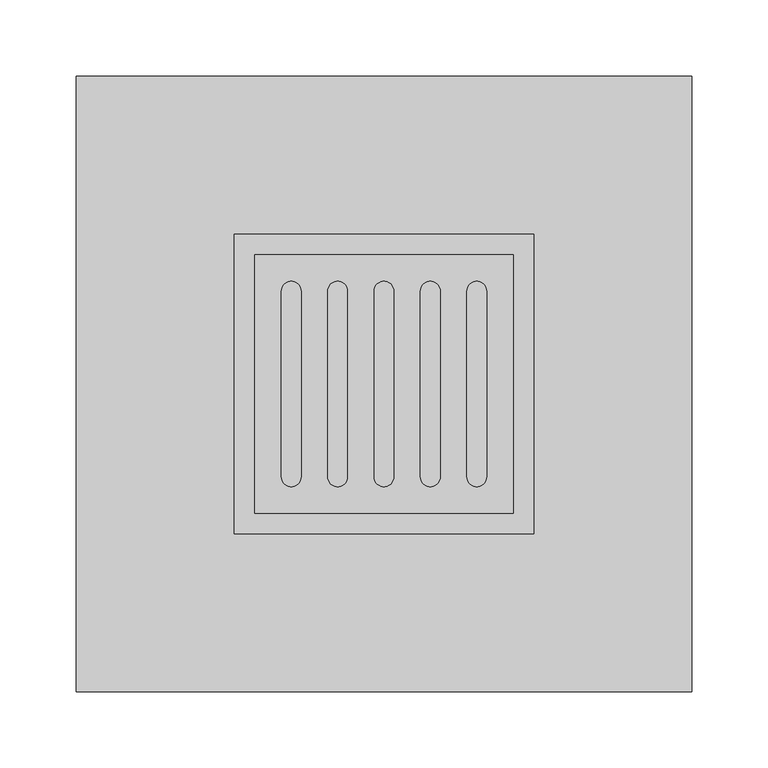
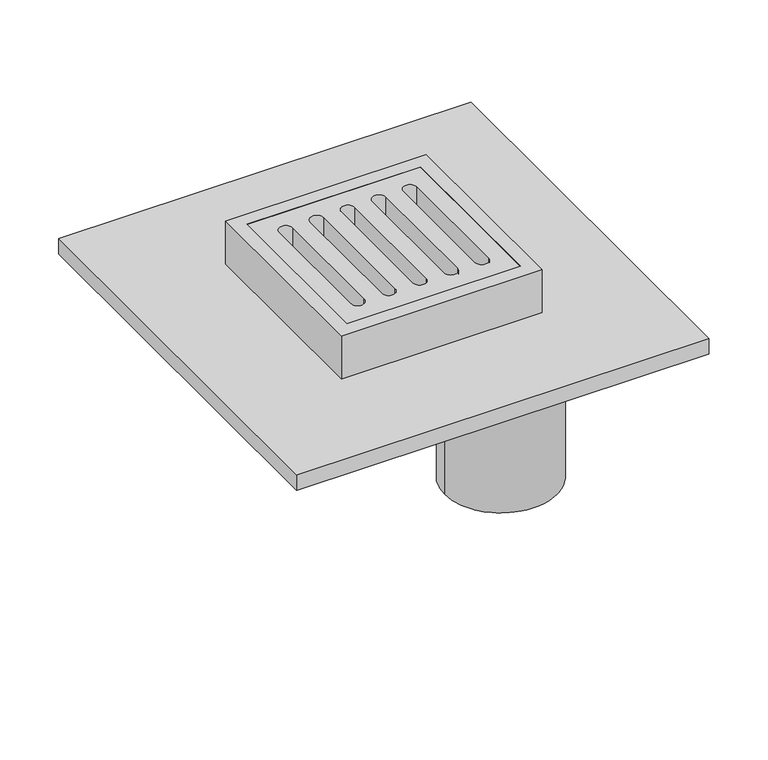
"""IFC4 building model written with IfcOpenShell, lengths in millimetres: sanitary terminal geometry, PF_ST_UN_681136_Siphon Fonte COMPLET G FONTE SORTIE DN100_ACO : PF_ST_UN_681136_Siphon Fonte COMPLET G FONTE SORTIE DN100_ACO."""

from ifc_helpers import new_model, si_unit, point, frame, frame_2d, origin, place, context, project, spatial, polyline, circle_curve, trimmed, segment, composite_curve, outline, extrude, source, transform, mapped, element, save
from ifc_brep_helpers import plane_surface, cylinder_surface, revolved_surface, advanced_brep


def sanitary_terminal_167ac9ac(model_context):
    return source(origin(), model_context, "Body", "SolidModel", [
        advanced_brep(
        [(98.5, 98.5, 0.0), (-98.5, 98.5, 0.0), (-98.5, -98.5, 0.0), (98.5, -98.5, 0.0), (85.0, 85.0, 0.0), (85.0, -85.0, 0.0), (-85.0, -85.0, 0.0), (-85.0, 85.0, 0.0), (98.5, 98.5, -45.0), (-98.5, 98.5, -45.0), (-98.5, -98.5, -45.0), (98.5, -98.5, -45.0), (85.0, 85.0, -45.0), (85.0, -85.0, -45.0), (-85.0, -85.0, -45.0), (-85.0, 85.0, -45.0), (92.0, -92.0, -135.0), (-92.0, -92.0, -135.0), (-92.0, 92.0, -135.0), (92.0, 92.0, -135.0), (92.0, 49.959984, -135.0), (60.0, 0.0, -135.0), (92.0, -49.959984, -135.0), (92.0, 44.0634432, -135.0), (92.0, -44.0634432, -135.0), (65.295, 0.0, -135.0), (-92.0, 92.0, -61.0), (92.0, 92.0, -61.0), (-92.0, -92.0, -61.0), (92.0, -92.0, -61.0), (92.0, 49.959984, -61.0), (92.0, -49.959984, -61.0), (92.0, 44.0634432, -61.0), (92.0, -44.0634432, -61.0), (60.0, 0.0, -280.0), (170.0, 0.0, -280.0), (65.295, 0.0, -280.0), (164.705, 0.0, -280.0), (170.0, 0.0, -61.0), (164.705, 0.0, -61.0), (202.5, 202.5, -61.0), (202.5, -202.5, -61.0), (-202.5, -202.5, -61.0), (-202.5, 202.5, -61.0), (202.5, 202.5, -45.0), (-202.5, 202.5, -45.0), (-202.5, -202.5, -45.0), (202.5, -202.5, -45.0)],
        [
            (0, 1),
            (1, 2),
            (2, 3),
            (3, 0),
            (4, 5),
            (5, 6),
            (6, 7),
            (7, 4),
            (0, 8),
            (8, 9),
            (9, 1),
            (9, 10),
            (10, 2),
            (10, 11),
            (11, 3),
            (11, 8),
            (4, 12),
            (12, 13),
            (13, 5),
            (13, 14),
            (14, 6),
            (14, 15),
            (15, 7),
            (15, 12),
            (16, 17),
            (17, 18),
            (18, 19),
            (19, 20),
            (20, 21, circle_curve(frame((115.0, 0.0, -135.0), z_axis=(0.0, 0.0, 1.0), x_axis=(1.0, 0.0, 0.0)), 55.0)),
            (21, 22, circle_curve(frame((115.0, 0.0, -135.0), z_axis=(0.0, 0.0, 1.0), x_axis=(1.0, 0.0, 0.0)), 55.0)),
            (22, 16),
            (23, 24),
            (24, 25, circle_curve(frame((115.0, 0.0, -135.0), z_axis=(0.0, 0.0, -1.0), x_axis=(1.0, 0.0, 0.0)), 49.705)),
            (25, 23, circle_curve(frame((115.0, 0.0, -135.0), z_axis=(0.0, 0.0, -1.0), x_axis=(1.0, 0.0, 0.0)), 49.705)),
            (18, 26),
            (26, 27),
            (27, 19),
            (17, 28),
            (28, 26),
            (16, 29),
            (29, 28),
            (27, 30),
            (30, 20),
            (22, 31),
            (31, 29),
            (23, 32),
            (32, 33),
            (33, 24),
            (34, 35, circle_curve(frame((115.0, 0.0, -280.0), z_axis=(0.0, 0.0, -1.0), x_axis=(1.0, 0.0, 0.0)), 55.0)),
            (35, 34, circle_curve(frame((115.0, 0.0, -280.0), z_axis=(0.0, 0.0, -1.0), x_axis=(1.0, 0.0, 0.0)), 55.0)),
            (36, 37, circle_curve(frame((115.0, 0.0, -280.0), z_axis=(0.0, 0.0, 1.0), x_axis=(1.0, 0.0, 0.0)), 49.705)),
            (37, 36, circle_curve(frame((115.0, 0.0, -280.0), z_axis=(0.0, 0.0, 1.0), x_axis=(1.0, 0.0, 0.0)), 49.705)),
            (35, 38),
            (38, 31, circle_curve(frame((115.0, 0.0, -61.0), z_axis=(0.0, 0.0, -1.0), x_axis=(1.0, 0.0, 0.0)), 55.0)),
            (21, 34),
            (30, 38, circle_curve(frame((115.0, 0.0, -61.0), z_axis=(0.0, 0.0, -1.0), x_axis=(1.0, 0.0, 0.0)), 55.0)),
            (37, 39),
            (39, 32, circle_curve(frame((115.0, 0.0, -61.0), z_axis=(0.0, 0.0, 1.0), x_axis=(1.0, 0.0, 0.0)), 49.705)),
            (25, 36),
            (33, 39, circle_curve(frame((115.0, 0.0, -61.0), z_axis=(0.0, 0.0, 1.0), x_axis=(1.0, 0.0, 0.0)), 49.705)),
            (40, 41),
            (41, 42),
            (42, 43),
            (43, 40),
            (44, 45),
            (45, 46),
            (46, 47),
            (47, 44),
            (43, 45),
            (44, 40),
            (42, 46),
            (41, 47),
        ],
        [
            plane_surface(frame((-98.5, 98.5, 0.0), z_axis=(0.0, 0.0, 1.0), x_axis=(-1.0, 0.0, 0.0))),
            plane_surface(frame((98.5, 98.5, 0.0), z_axis=(0.0, 1.0, 0.0), x_axis=(0.0, 0.0, -1.0))),
            plane_surface(frame((-98.5, 98.5, 0.0), z_axis=(-1.0, 0.0, 0.0), x_axis=(0.0, 0.0, -1.0))),
            plane_surface(frame((-98.5, -98.5, 0.0), z_axis=(0.0, -1.0, 0.0), x_axis=(0.0, 0.0, -1.0))),
            plane_surface(frame((98.5, -98.5, 0.0), z_axis=(1.0, 0.0, 0.0), x_axis=(0.0, 0.0, -1.0))),
            plane_surface(frame((85.0, 85.0, 0.0), z_axis=(-1.0, 0.0, 0.0), x_axis=(0.0, 0.0, -1.0))),
            plane_surface(frame((85.0, -85.0, 0.0), z_axis=(0.0, 1.0, 0.0), x_axis=(0.0, 0.0, -1.0))),
            plane_surface(frame((-85.0, -85.0, 0.0), z_axis=(1.0, 0.0, 0.0), x_axis=(0.0, 0.0, -1.0))),
            plane_surface(frame((-85.0, 85.0, 0.0), z_axis=(0.0, -1.0, 0.0), x_axis=(0.0, 0.0, -1.0))),
            plane_surface(frame((-92.0, 92.0, -135.0), z_axis=(0.0, 0.0, -1.0), x_axis=(1.0, 0.0, 0.0))),
            plane_surface(frame((-92.0, 92.0, -45.0), z_axis=(0.0, 0.0, 1.0), x_axis=(-1.0, 0.0, 0.0))),
            plane_surface(frame((92.0, 92.0, -45.0), z_axis=(0.0, 1.0, 0.0), x_axis=(0.0, 0.0, -1.0))),
            plane_surface(frame((-92.0, 92.0, -45.0), z_axis=(-1.0, 0.0, 0.0), x_axis=(0.0, 0.0, -1.0))),
            plane_surface(frame((-92.0, -92.0, -45.0), z_axis=(0.0, -1.0, 0.0), x_axis=(0.0, 0.0, -1.0))),
            plane_surface(frame((92.0, -92.0, -45.0), z_axis=(1.0, 0.0, 0.0), x_axis=(0.0, 0.0, -1.0))),
            plane_surface(frame((170.0, 0.0, -280.0), z_axis=(0.0, 0.0, -1.0), x_axis=(0.0, -1.0, 0.0))),
            cylinder_surface(frame((115.0, 0.0, -280.0), z_axis=(0.0, 0.0, 1.0), x_axis=(1.0, 0.0, 0.0)), 55.0),
            revolved_surface(polyline([(164.70499999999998, 0.0, -280.0), (164.70499999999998, 0.0, -61.0)]), (115.0, 0.0, 0.0), (0.0, 0.0, -1.0)),
            plane_surface(frame((-202.5, 202.5, -61.0), z_axis=(0.0, 0.0, -1.0), x_axis=(1.0, 0.0, 0.0))),
            plane_surface(frame((-202.5, 202.5, -45.0), z_axis=(0.0, 0.0, 1.0), x_axis=(-1.0, 0.0, 0.0))),
            plane_surface(frame((202.5, 202.5, -45.0), z_axis=(0.0, 1.0, 0.0), x_axis=(0.0, 0.0, -1.0))),
            plane_surface(frame((-202.5, 202.5, -45.0), z_axis=(-1.0, 0.0, 0.0), x_axis=(0.0, 0.0, -1.0))),
            plane_surface(frame((-202.5, -202.5, -45.0), z_axis=(0.0, -1.0, 0.0), x_axis=(0.0, 0.0, -1.0))),
            plane_surface(frame((202.5, -202.5, -45.0), z_axis=(1.0, 0.0, 0.0), x_axis=(0.0, 0.0, -1.0))),
        ],
        [
            (0, [[1, 2, 3, 4], [5, 6, 7, 8]]),
            (1, [[-1, 9, 10, 11]]),
            (2, [[-2, -11, 12, 13]]),
            (3, [[-3, -13, 14, 15]]),
            (4, [[-4, -15, 16, -9]]),
            (5, [[-5, 17, 18, 19]]),
            (6, [[-6, -19, 20, 21]]),
            (7, [[-7, -21, 22, 23]]),
            (8, [[-8, -23, 24, -17]]),
            (9, [[25, 26, 27, 28, 29, 30, 31]]),
            (9, [[32, 33, 34]]),
            (10, [[-18, -24, -22, -20]]),
            (11, [[-27, 35, 36, 37]]),
            (12, [[-26, 38, 39, -35]]),
            (13, [[-25, 40, 41, -38]]),
            (14, [[-28, -37, 42, 43]]),
            (14, [[-31, 44, 45, -40]]),
            (14, [[-32, 46, 47, 48]]),
            (15, [[49, 50], [51, 52]]),
            (16, [[-50, 53, 54, -44, -30, 55]]),
            (16, [[-49, -55, -29, -43, 56, -53]]),
            (17, [[-52, 57, 58, -46, -34, 59]]),
            (17, [[-51, -59, -33, -48, 60, -57]]),
            (18, [[-47, -58, -60]]),
            (18, [[61, 62, 63, 64], [-36, -39, -41, -45, -54, -56, -42]]),
            (19, [[65, 66, 67, 68], [-10, -16, -14, -12]]),
            (20, [[-64, 69, -65, 70]]),
            (21, [[-63, 71, -66, -69]]),
            (22, [[-62, 72, -67, -71]]),
            (23, [[-61, -70, -68, -72]]),
        ],
    ),
        extrude(outline(polyline([(85.0, 85.0), (85.0, -85.0), (-85.0, -85.0), (-85.0, 85.0), (85.0, 85.0)]), holes=[composite_curve([segment(trimmed(circle_curve(frame_2d((0.0, -61.0)), 6.5), [point((-6.5, -61.0))], [point((6.5, -61.0))], True, "CARTESIAN"), True, "CONTINUOUS"), segment(polyline([(6.5, -61.0), (6.5, 61.0)]), True, "CONTINUOUS"), segment(trimmed(circle_curve(frame_2d((0.0, 61.0)), 6.5), [point((6.5, 61.0))], [point((-6.5, 61.0))], True, "CARTESIAN"), True, "CONTINUOUS"), segment(polyline([(-6.5, 61.0), (-6.5, -61.0)]), True, "CONTINUOUS")], self_intersect=False), composite_curve([segment(trimmed(circle_curve(frame_2d((30.5, -61.0)), 6.5), [point((24.0, -61.0))], [point((37.0, -61.0))], True, "CARTESIAN"), True, "CONTINUOUS"), segment(polyline([(37.0, -61.0), (37.0, 61.0)]), True, "CONTINUOUS"), segment(trimmed(circle_curve(frame_2d((30.5, 61.0)), 6.5), [point((37.0, 61.0))], [point((24.0, 61.0))], True, "CARTESIAN"), True, "CONTINUOUS"), segment(polyline([(24.0, 61.0), (24.0, -61.0)]), True, "CONTINUOUS")], self_intersect=False), composite_curve([segment(trimmed(circle_curve(frame_2d((61.0, -61.0)), 6.5), [point((54.5, -61.0))], [point((67.5, -61.0))], True, "CARTESIAN"), True, "CONTINUOUS"), segment(polyline([(67.5, -61.0), (67.5, 61.0)]), True, "CONTINUOUS"), segment(trimmed(circle_curve(frame_2d((61.0, 61.0)), 6.5), [point((67.5, 61.0))], [point((54.5, 61.0))], True, "CARTESIAN"), True, "CONTINUOUS"), segment(polyline([(54.5, 61.0), (54.5, -61.0)]), True, "CONTINUOUS")], self_intersect=False), composite_curve([segment(polyline([(-24.0, -61.0), (-24.0, 61.0)]), True, "CONTINUOUS"), segment(trimmed(circle_curve(frame_2d((-30.5, 61.0)), 6.5), [point((-24.0, 61.0))], [point((-37.0, 61.0))], True, "CARTESIAN"), True, "CONTINUOUS"), segment(polyline([(-37.0, 61.0), (-37.0, -61.0)]), True, "CONTINUOUS"), segment(trimmed(circle_curve(frame_2d((-30.5, -61.0)), 6.5), [point((-37.0, -61.0))], [point((-24.0, -61.0))], True, "CARTESIAN"), True, "CONTINUOUS")], self_intersect=False), composite_curve([segment(polyline([(-54.5, -61.0), (-54.5, 61.0)]), True, "CONTINUOUS"), segment(trimmed(circle_curve(frame_2d((-61.0, 61.0)), 6.5), [point((-54.5, 61.0))], [point((-67.5, 61.0))], True, "CARTESIAN"), True, "CONTINUOUS"), segment(polyline([(-67.5, 61.0), (-67.5, -61.0)]), True, "CONTINUOUS"), segment(trimmed(circle_curve(frame_2d((-61.0, -61.0)), 6.5), [point((-67.5, -61.0))], [point((-54.5, -61.0))], True, "CARTESIAN"), True, "CONTINUOUS")], self_intersect=False)]), frame((0.0, 0.0, -35.0), z_axis=(0.0, 0.0, 1.0), x_axis=(1.0, 0.0, 0.0)), (0.0, 0.0, 1.0), 35.0),
    ])


if __name__ == "__main__":
    model = new_model("IFC4")
    model_context = context("Model", 3, world=origin())
    ifc_project = project(units=[si_unit("LENGTHUNIT", "METRE", prefix="MILLI")], contexts=[model_context])
    site = spatial("IfcSite", under=ifc_project)
    building = spatial("IfcBuilding", under=site)
    placement = place(None, origin())
    sanitary_terminal_shape = sanitary_terminal_167ac9ac(model_context)
    element("IfcSanitaryTerminal", 1, ObjectType="PF_ST_UN_681136_Siphon Fonte COMPLET G FONTE SORTIE DN100_ACO : PF_ST_UN_681136_Siphon Fonte COMPLET G FONTE SORTIE DN100_ACO", at=placement, inside=building, context=model_context, shape_type="MappedRepresentation", body=[
        mapped(sanitary_terminal_shape, transform((0.0, 0.0, 0.0), x_axis=(1.0, 0.0, 0.0), y_axis=(0.0, 1.0, 0.0), z_axis=(0.0, 0.0, 1.0))),
    ])
    save(model, "model.ifc")
